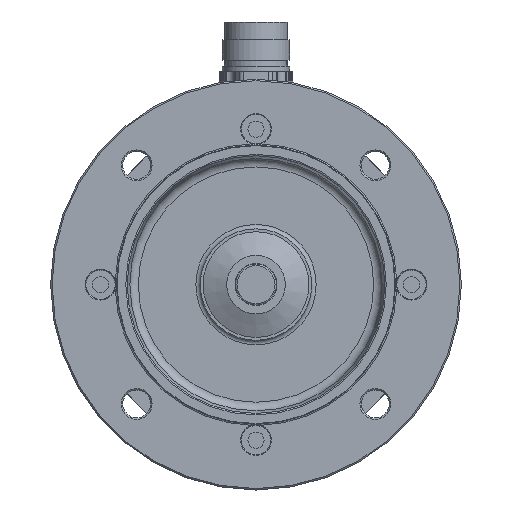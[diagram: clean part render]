
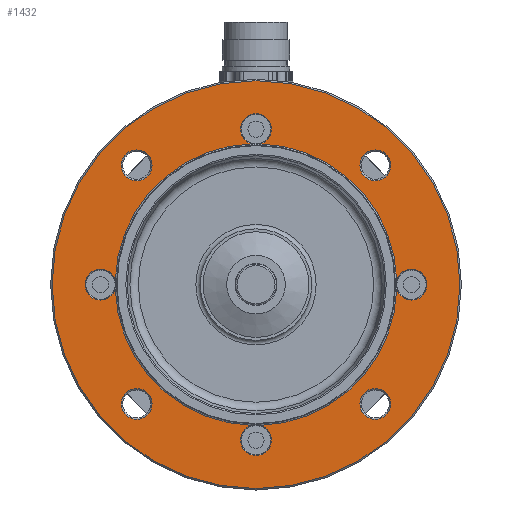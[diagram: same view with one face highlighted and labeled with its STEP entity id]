
A CAD part, front view. The second image highlights one B-rep face of the part: STEP entity #1432.
In plain terms, the highlighted planar face has unit normal (0, -1, 0).
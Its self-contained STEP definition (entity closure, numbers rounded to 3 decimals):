
#545=PLANE('',#7781);
#677=FACE_BOUND('',#2585,.T.);
#678=FACE_BOUND('',#2586,.T.);
#679=FACE_BOUND('',#2587,.T.);
#680=FACE_BOUND('',#2588,.T.);
#681=FACE_BOUND('',#2589,.T.);
#1432=ADVANCED_FACE('',(#2237,#677,#678,#679,#680,#681),#545,.T.);
#2237=FACE_OUTER_BOUND('',#2584,.T.);
#2584=EDGE_LOOP('',(#4364));
#2585=EDGE_LOOP('',(#4365,#4366,#4367,#4368,#4369,#4370,#4371,#4372));
#2586=EDGE_LOOP('',(#4373));
#2587=EDGE_LOOP('',(#4374));
#2588=EDGE_LOOP('',(#4375));
#2589=EDGE_LOOP('',(#4376));
#3677=CIRCLE('',#7768,69.5);
#3678=CIRCLE('',#7769,5.25);
#3679=CIRCLE('',#7770,48.);
#3680=CIRCLE('',#7771,5.25);
#3681=CIRCLE('',#7772,48.);
#3682=CIRCLE('',#7773,5.25);
#3683=CIRCLE('',#7774,48.);
#3684=CIRCLE('',#7775,5.25);
#3685=CIRCLE('',#7776,48.);
#3686=CIRCLE('',#7777,5.25);
#3687=CIRCLE('',#7778,5.25);
#3688=CIRCLE('',#7779,5.25);
#3689=CIRCLE('',#7780,5.25);
#4364=ORIENTED_EDGE('',*,*,#6704,.T.);
#4365=ORIENTED_EDGE('',*,*,#6705,.T.);
#4366=ORIENTED_EDGE('',*,*,#6706,.T.);
#4367=ORIENTED_EDGE('',*,*,#6707,.T.);
#4368=ORIENTED_EDGE('',*,*,#6708,.T.);
#4369=ORIENTED_EDGE('',*,*,#6709,.T.);
#4370=ORIENTED_EDGE('',*,*,#6710,.T.);
#4371=ORIENTED_EDGE('',*,*,#6711,.T.);
#4372=ORIENTED_EDGE('',*,*,#6712,.T.);
#4373=ORIENTED_EDGE('',*,*,#6713,.T.);
#4374=ORIENTED_EDGE('',*,*,#6714,.T.);
#4375=ORIENTED_EDGE('',*,*,#6715,.T.);
#4376=ORIENTED_EDGE('',*,*,#6716,.T.);
#5992=VERTEX_POINT('',#11617);
#5993=VERTEX_POINT('',#11619);
#5994=VERTEX_POINT('',#11620);
#5995=VERTEX_POINT('',#11622);
#5996=VERTEX_POINT('',#11624);
#5997=VERTEX_POINT('',#11626);
#5998=VERTEX_POINT('',#11628);
#5999=VERTEX_POINT('',#11630);
#6000=VERTEX_POINT('',#11632);
#6001=VERTEX_POINT('',#11635);
#6002=VERTEX_POINT('',#11637);
#6003=VERTEX_POINT('',#11639);
#6004=VERTEX_POINT('',#11641);
#6704=EDGE_CURVE('',#5992,#5992,#3677,.T.);
#6705=EDGE_CURVE('',#5993,#5994,#3678,.T.);
#6706=EDGE_CURVE('',#5994,#5995,#3679,.T.);
#6707=EDGE_CURVE('',#5995,#5996,#3680,.T.);
#6708=EDGE_CURVE('',#5996,#5997,#3681,.T.);
#6709=EDGE_CURVE('',#5997,#5998,#3682,.T.);
#6710=EDGE_CURVE('',#5998,#5999,#3683,.T.);
#6711=EDGE_CURVE('',#5999,#6000,#3684,.T.);
#6712=EDGE_CURVE('',#6000,#5993,#3685,.T.);
#6713=EDGE_CURVE('',#6001,#6001,#3686,.T.);
#6714=EDGE_CURVE('',#6002,#6002,#3687,.T.);
#6715=EDGE_CURVE('',#6003,#6003,#3688,.T.);
#6716=EDGE_CURVE('',#6004,#6004,#3689,.T.);
#7768=AXIS2_PLACEMENT_3D('',#11616,#9028,#9029);
#7769=AXIS2_PLACEMENT_3D('',#11618,#9030,#9031);
#7770=AXIS2_PLACEMENT_3D('',#11621,#9032,#9033);
#7771=AXIS2_PLACEMENT_3D('',#11623,#9034,#9035);
#7772=AXIS2_PLACEMENT_3D('',#11625,#9036,#9037);
#7773=AXIS2_PLACEMENT_3D('',#11627,#9038,#9039);
#7774=AXIS2_PLACEMENT_3D('',#11629,#9040,#9041);
#7775=AXIS2_PLACEMENT_3D('',#11631,#9042,#9043);
#7776=AXIS2_PLACEMENT_3D('',#11633,#9044,#9045);
#7777=AXIS2_PLACEMENT_3D('',#11634,#9046,#9047);
#7778=AXIS2_PLACEMENT_3D('',#11636,#9048,#9049);
#7779=AXIS2_PLACEMENT_3D('',#11638,#9050,#9051);
#7780=AXIS2_PLACEMENT_3D('',#11640,#9052,#9053);
#7781=AXIS2_PLACEMENT_3D('',#11642,#9054,#9055);
#9028=DIRECTION('',(0.,-1.,0.));
#9029=DIRECTION('',(0.,0.,-1.));
#9030=DIRECTION('',(0.,1.,0.));
#9031=DIRECTION('',(0.,0.,-1.));
#9032=DIRECTION('',(0.,1.,0.));
#9033=DIRECTION('',(0.,0.,-1.));
#9034=DIRECTION('',(0.,1.,0.));
#9035=DIRECTION('',(0.,0.,-1.));
#9036=DIRECTION('',(0.,1.,0.));
#9037=DIRECTION('',(0.,0.,-1.));
#9038=DIRECTION('',(0.,1.,0.));
#9039=DIRECTION('',(0.,0.,-1.));
#9040=DIRECTION('',(0.,1.,0.));
#9041=DIRECTION('',(0.,0.,-1.));
#9042=DIRECTION('',(0.,1.,0.));
#9043=DIRECTION('',(0.,0.,-1.));
#9044=DIRECTION('',(0.,1.,0.));
#9045=DIRECTION('',(0.,0.,-1.));
#9046=DIRECTION('',(0.,1.,0.));
#9047=DIRECTION('',(0.,0.,-1.));
#9048=DIRECTION('',(0.,1.,0.));
#9049=DIRECTION('',(0.,0.,-1.));
#9050=DIRECTION('',(0.,1.,0.));
#9051=DIRECTION('',(0.,0.,-1.));
#9052=DIRECTION('',(0.,1.,0.));
#9053=DIRECTION('',(0.,0.,-1.));
#9054=DIRECTION('',(0.,-1.,0.));
#9055=DIRECTION('',(0.,0.,-1.));
#11616=CARTESIAN_POINT('',(0.,0.,0.));
#11617=CARTESIAN_POINT('',(0.,0.,-69.5));
#11618=CARTESIAN_POINT('',(0.,0.,-53.));
#11619=CARTESIAN_POINT('',(1.523,0.,-47.976));
#11620=CARTESIAN_POINT('',(-1.523,0.,-47.976));
#11621=CARTESIAN_POINT('',(0.,0.,0.));
#11622=CARTESIAN_POINT('',(-47.976,0.,-1.523));
#11623=CARTESIAN_POINT('',(-53.,0.,0.));
#11624=CARTESIAN_POINT('',(-47.976,0.,1.523));
#11625=CARTESIAN_POINT('',(0.,0.,0.));
#11626=CARTESIAN_POINT('',(-1.523,0.,47.976));
#11627=CARTESIAN_POINT('',(0.,0.,53.));
#11628=CARTESIAN_POINT('',(1.523,0.,47.976));
#11629=CARTESIAN_POINT('',(0.,0.,0.));
#11630=CARTESIAN_POINT('',(47.976,0.,1.523));
#11631=CARTESIAN_POINT('',(53.,0.,0.));
#11632=CARTESIAN_POINT('',(47.976,0.,-1.523));
#11633=CARTESIAN_POINT('',(0.,0.,0.));
#11634=CARTESIAN_POINT('',(-40.659,0.,-40.659));
#11635=CARTESIAN_POINT('',(-40.659,0.,-45.909));
#11636=CARTESIAN_POINT('',(-40.659,0.,40.659));
#11637=CARTESIAN_POINT('',(-40.659,0.,35.409));
#11638=CARTESIAN_POINT('',(40.659,0.,-40.659));
#11639=CARTESIAN_POINT('',(40.659,0.,-45.909));
#11640=CARTESIAN_POINT('',(40.659,0.,40.659));
#11641=CARTESIAN_POINT('',(40.659,0.,35.409));
#11642=CARTESIAN_POINT('',(0.,0.,0.));
